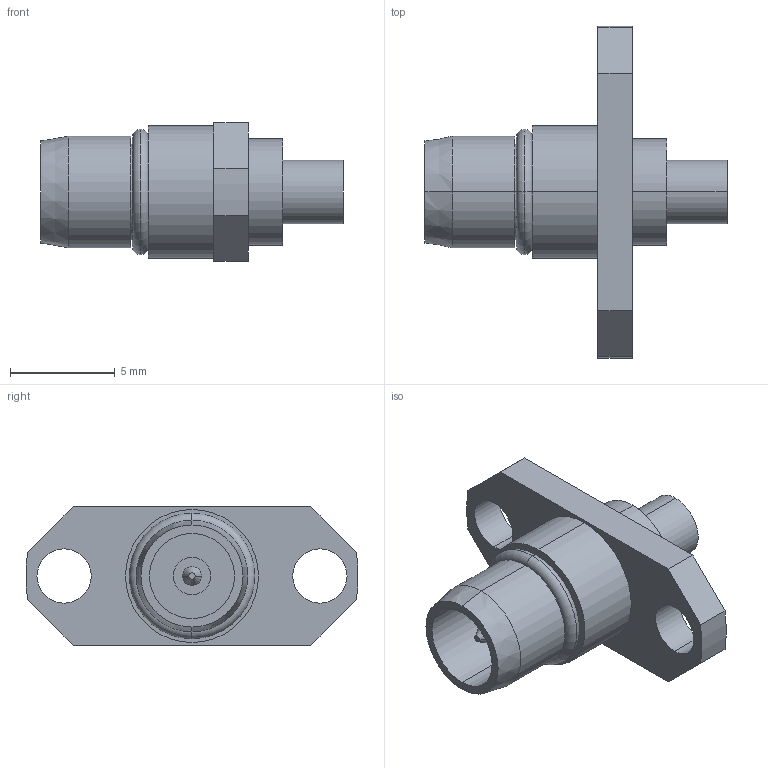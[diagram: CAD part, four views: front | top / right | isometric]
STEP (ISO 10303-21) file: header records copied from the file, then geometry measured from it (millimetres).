
FILE_DESCRIPTION (( 'STEP AP214' ), '1' );
FILE_NAME ('1711-60008.STEP', '2016-02-08T15:55:40', ( '' ), ( '' ), 'SwSTEP 2.0', 'SolidWorks 2015', '' );
FILE_SCHEMA (( 'AUTOMOTIVE_DESIGN' ));
Length unit declared in the file: inch
Products named in the file (1): 1711-60008
Bounding box: 14.43 x 15.86 x 6.6 mm (x, y, z)
Volume: 336.7 mm3; surface area: 604.2 mm2
Topology: 2 solids, 2 shells, 51 faces, 110 edges, 70 vertices
Faces by surface type: cylinder 24, plane 17, cone 6, torus 4
Entity records: 2093 total; most frequent: DIRECTION 276, CARTESIAN_POINT 232, ORIENTED_EDGE 220, AXIS2_PLACEMENT_3D 114, EDGE_CURVE 110, VERTEX_POINT 70, EDGE_LOOP 64, CIRCLE 62
